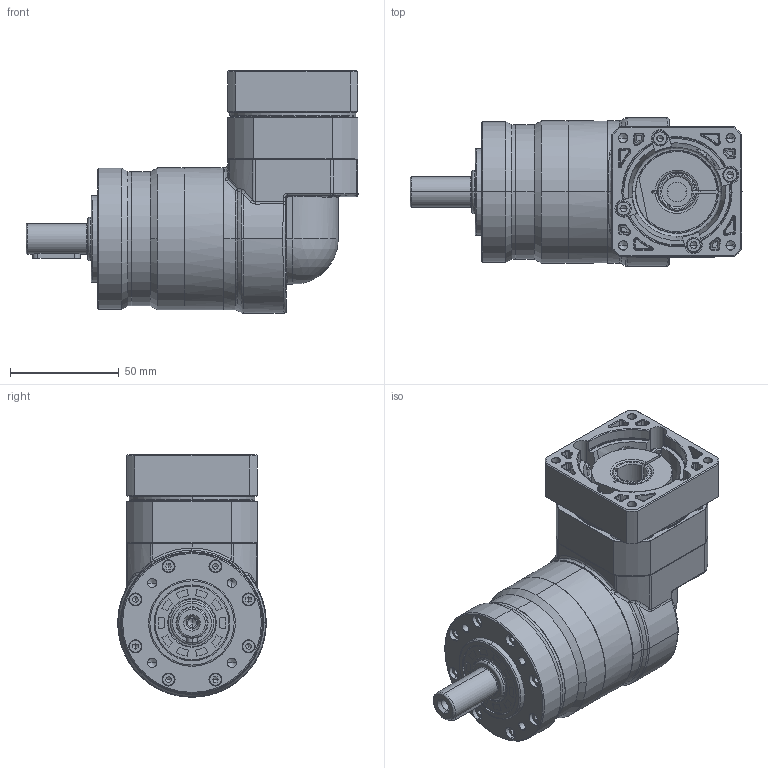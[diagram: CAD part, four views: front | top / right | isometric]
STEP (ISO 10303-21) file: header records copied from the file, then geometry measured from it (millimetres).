
FILE_DESCRIPTION (( 'STEP AP214' ), '1' );
FILE_NAME ('FER060-L1-S2-P1 14-50-70-M5-33.STEP', '2025-02-19T01:09:50', ( '微软用户' ), ( '微软中国' ), 'SwSTEP 2.0', 'SolidWorks 2021', '' );
FILE_SCHEMA (( 'AUTOMOTIVE_DESIGN' ));
Length unit declared in the file: millimetre
Products named in the file (4): FER060D-L1-14-50-70-M4-33; 3.EVT064F眻褒眊极_step_stp_stp.stp; FER060-L1-S2-P1 14-50-70-M5-33; EVT060D-L2-8-38.1-66.7-M4-33
Assembly tree (7 placements, depth 2):
  FER060-L1-S2-P1 14-50-70-M5-33
    FER060D-L1-14-50-70-M4-33
    3.EVT064F眻褒眊极_step_stp_stp.stp
    EVT060D-L2-8-38.1-66.7-M4-33  x5
Bounding box: 153 x 68.5 x 111.75 mm (x, y, z)
Volume: 92098.5 mm3; surface area: 120005.9 mm2
Topology: 1 solids, 43 shells, 1677 faces, 4182 edges, 2603 vertices
Faces by surface type: cylinder 541, plane 470, bspline 312, cone 287, torus 63, sphere 4
Entity records: 83131 total; most frequent: CARTESIAN_POINT 31662, ORIENTED_EDGE 7463, DIRECTION 6585, EDGE_CURVE 3764, AXIS2_PLACEMENT_3D 2652, VERTEX_POINT 2386, EDGE_LOOP 1729, UNCERTAINTY_MEASURE_WITH_UNIT 1574
